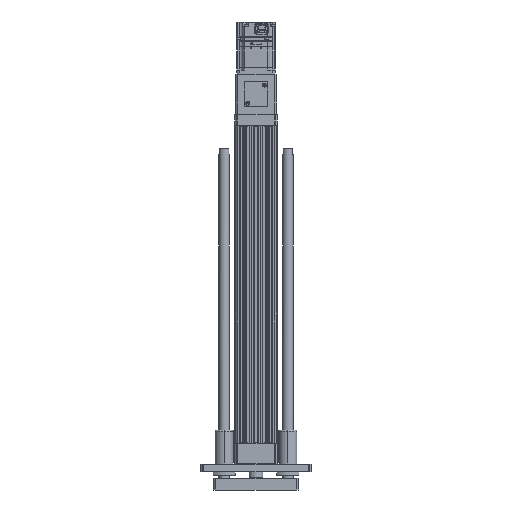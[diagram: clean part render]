
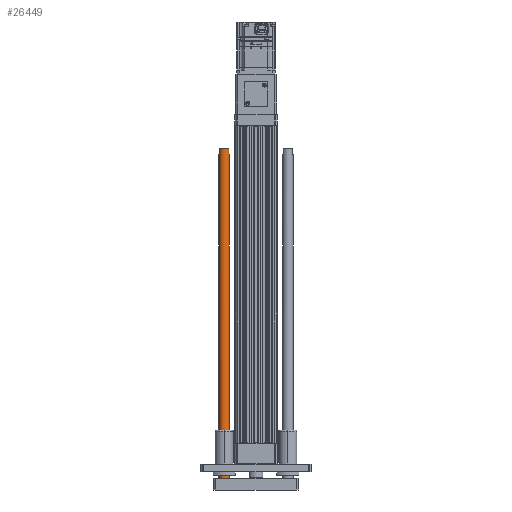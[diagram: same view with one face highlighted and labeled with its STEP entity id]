
A CAD part, left-side view. The second image highlights one B-rep face of the part: STEP entity #26449.
In plain terms, the highlighted cylindrical face has radius 8 mm (diameter 16 mm), a partial arc.
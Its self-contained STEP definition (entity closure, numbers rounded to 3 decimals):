
#851 = LINE ( 'NONE', #10479, #35860 ) ;
#1286 = CARTESIAN_POINT ( 'NONE',  ( 57., 0., 498. ) ) ;
#2180 = EDGE_CURVE ( 'NONE', #23860, #45217, #9393, .T. ) ;
#4860 = LINE ( 'NONE', #31521, #22369 ) ;
#5445 = VECTOR ( 'NONE', #33668, 1000. ) ;
#5618 = CARTESIAN_POINT ( 'NONE',  ( 56., 3.873, 498. ) ) ;
#6960 = DIRECTION ( 'NONE',  ( 0., 0., -1. ) ) ;
#8125 = CARTESIAN_POINT ( 'NONE',  ( 49., 0., 508. ) ) ;
#9246 = CARTESIAN_POINT ( 'NONE',  ( 41., 0., 508. ) ) ;
#9393 = CIRCLE ( 'NONE', #18063, 8. ) ;
#9889 = EDGE_CURVE ( 'NONE', #23860, #38614, #12161, .T. ) ;
#10479 = CARTESIAN_POINT ( 'NONE',  ( 42., 3.873, 508. ) ) ;
#11214 = AXIS2_PLACEMENT_3D ( 'NONE', #15694, #40169, #19227 ) ;
#12161 = LINE ( 'NONE', #16373, #21491 ) ;
#12595 = DIRECTION ( 'NONE',  ( 0., 0., 1. ) ) ;
#14146 = EDGE_CURVE ( 'NONE', #35322, #21174, #851, .T. ) ;
#14148 = CARTESIAN_POINT ( 'NONE',  ( 41., 0., 498. ) ) ;
#15143 = DIRECTION ( 'NONE',  ( -1., 0., 0. ) ) ;
#15214 = FACE_OUTER_BOUND ( 'NONE', #44541, .T. ) ;
#15330 = CIRCLE ( 'NONE', #11214, 8. ) ;
#15514 = ORIENTED_EDGE ( 'NONE', *, *, #17193, .T. ) ;
#15694 = CARTESIAN_POINT ( 'NONE',  ( 49., 0., 0. ) ) ;
#16075 = CIRCLE ( 'NONE', #26032, 8. ) ;
#16373 = CARTESIAN_POINT ( 'NONE',  ( 57., 0., 508. ) ) ;
#17193 = EDGE_CURVE ( 'NONE', #35322, #43235, #29089, .T. ) ;
#18063 = AXIS2_PLACEMENT_3D ( 'NONE', #33520, #12595, #37058 ) ;
#18371 = CARTESIAN_POINT ( 'NONE',  ( 41., 0., 0. ) ) ;
#18671 = DIRECTION ( 'NONE',  ( 0., 0., -1. ) ) ;
#19179 = CARTESIAN_POINT ( 'NONE',  ( 49., 0., 498. ) ) ;
#19227 = DIRECTION ( 'NONE',  ( 1., 0., 0. ) ) ;
#19251 = CARTESIAN_POINT ( 'NONE',  ( 49., 0., 507.5 ) ) ;
#19433 = CARTESIAN_POINT ( 'NONE',  ( 57., 0., 0. ) ) ;
#21174 = VERTEX_POINT ( 'NONE', #26461 ) ;
#21491 = VECTOR ( 'NONE', #44209, 1000. ) ;
#21674 = EDGE_CURVE ( 'NONE', #38614, #36542, #15330, .T. ) ;
#22228 = AXIS2_PLACEMENT_3D ( 'NONE', #19251, #43699, #22786 ) ;
#22334 = EDGE_CURVE ( 'NONE', #43248, #36542, #32206, .T. ) ;
#22369 = VECTOR ( 'NONE', #24501, 1000. ) ;
#22572 = EDGE_CURVE ( 'NONE', #45217, #43235, #4860, .T. ) ;
#22710 = DIRECTION ( 'NONE',  ( 1., 0., 0. ) ) ;
#22786 = DIRECTION ( 'NONE',  ( 1., 0., 0. ) ) ;
#23860 = VERTEX_POINT ( 'NONE', #1286 ) ;
#24501 = DIRECTION ( 'NONE',  ( 0., 0., 1. ) ) ;
#24566 = ORIENTED_EDGE ( 'NONE', *, *, #21674, .T. ) ;
#25962 = EDGE_CURVE ( 'NONE', #21174, #43248, #16075, .T. ) ;
#26032 = AXIS2_PLACEMENT_3D ( 'NONE', #19179, #43625, #22710 ) ;
#26276 = ORIENTED_EDGE ( 'NONE', *, *, #14146, .F. ) ;
#26449 = ADVANCED_FACE ( 'NONE', ( #15214 ), #41997, .T. ) ;
#26461 = CARTESIAN_POINT ( 'NONE',  ( 42., 3.873, 498. ) ) ;
#27600 = ORIENTED_EDGE ( 'NONE', *, *, #9889, .T. ) ;
#27946 = CARTESIAN_POINT ( 'NONE',  ( 56., 3.873, 507.5 ) ) ;
#28292 = CARTESIAN_POINT ( 'NONE',  ( 42., 3.873, 507.5 ) ) ;
#29089 = CIRCLE ( 'NONE', #22228, 8. ) ;
#30768 = ORIENTED_EDGE ( 'NONE', *, *, #22334, .F. ) ;
#31481 = ORIENTED_EDGE ( 'NONE', *, *, #2180, .F. ) ;
#31521 = CARTESIAN_POINT ( 'NONE',  ( 56., 3.873, 508. ) ) ;
#32206 = LINE ( 'NONE', #9246, #5445 ) ;
#32307 = ORIENTED_EDGE ( 'NONE', *, *, #25962, .F. ) ;
#33520 = CARTESIAN_POINT ( 'NONE',  ( 49., 0., 498. ) ) ;
#33668 = DIRECTION ( 'NONE',  ( 0., 0., -1. ) ) ;
#35322 = VERTEX_POINT ( 'NONE', #28292 ) ;
#35860 = VECTOR ( 'NONE', #6960, 1000. ) ;
#36542 = VERTEX_POINT ( 'NONE', #18371 ) ;
#37058 = DIRECTION ( 'NONE',  ( 1., 0., 0. ) ) ;
#38614 = VERTEX_POINT ( 'NONE', #19433 ) ;
#38952 = AXIS2_PLACEMENT_3D ( 'NONE', #8125, #18671, #15143 ) ;
#40169 = DIRECTION ( 'NONE',  ( 0., 0., 1. ) ) ;
#41997 = CYLINDRICAL_SURFACE ( 'NONE', #38952, 8. ) ;
#43108 = ORIENTED_EDGE ( 'NONE', *, *, #22572, .F. ) ;
#43235 = VERTEX_POINT ( 'NONE', #27946 ) ;
#43248 = VERTEX_POINT ( 'NONE', #14148 ) ;
#43625 = DIRECTION ( 'NONE',  ( 0., 0., 1. ) ) ;
#43699 = DIRECTION ( 'NONE',  ( 0., 0., -1. ) ) ;
#44209 = DIRECTION ( 'NONE',  ( 0., 0., -1. ) ) ;
#44541 = EDGE_LOOP ( 'NONE', ( #31481, #27600, #24566, #30768, #32307, #26276, #15514, #43108 ) ) ;
#45217 = VERTEX_POINT ( 'NONE', #5618 ) ;
